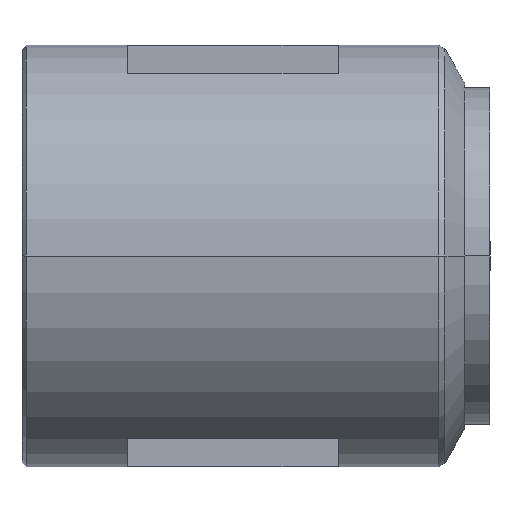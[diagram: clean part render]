
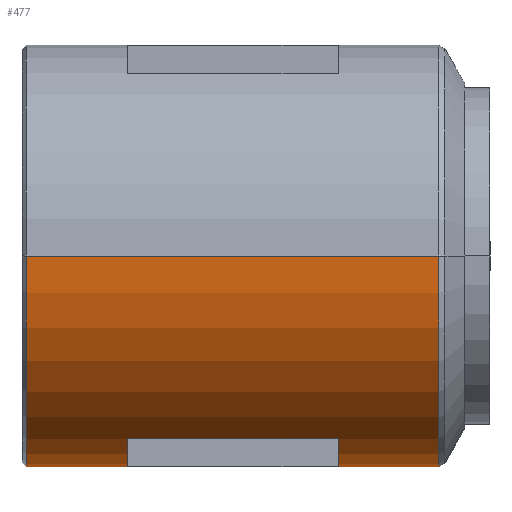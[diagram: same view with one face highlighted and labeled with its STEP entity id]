
A CAD part, left-side view. The second image highlights one B-rep face of the part: STEP entity #477.
In plain terms, the highlighted cylindrical face has radius 25 mm (diameter 50 mm), a partial arc.
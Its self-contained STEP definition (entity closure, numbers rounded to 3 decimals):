
#279=CARTESIAN_POINT('',(-25.0,34.25,0.));
#280=VERTEX_POINT('',#279);
#296=CARTESIAN_POINT('',(25.0,34.25,0.0));
#297=VERTEX_POINT('',#296);
#304=CARTESIAN_POINT('',(0.0,34.25,0.0));
#305=DIRECTION('',(0.0,1.0,0.0));
#306=DIRECTION('',(-1.0,0.0,0.0));
#307=AXIS2_PLACEMENT_3D('',#304,#305,#306);
#308=CIRCLE('',#307,25.0);
#309=EDGE_CURVE('',#297,#280,#308,.T.);
#356=CARTESIAN_POINT('',(0.0,-17.75,0.0));
#357=DIRECTION('',(0.0,1.0,0.0));
#358=DIRECTION('',(1.0,0.0,0.0));
#359=AXIS2_PLACEMENT_3D('',#356,#357,#358);
#360=CYLINDRICAL_SURFACE('',#359,25.0);
#361=CARTESIAN_POINT('',(25.0,-14.652,0.));
#362=VERTEX_POINT('',#361);
#363=CARTESIAN_POINT('',(25.0,-8.0,0.));
#364=VERTEX_POINT('',#363);
#365=CARTESIAN_POINT('',(25.0,-14.652,0.));
#366=DIRECTION('',(0.0,1.0,0.0));
#367=VECTOR('',#366,6.652);
#368=LINE('',#365,#367);
#369=EDGE_CURVE('',#362,#364,#368,.T.);
#370=ORIENTED_EDGE('',*,*,#369,.F.);
#371=CARTESIAN_POINT('',(-25.0,-14.652,0.0));
#372=VERTEX_POINT('',#371);
#373=CARTESIAN_POINT('',(0.0,-14.652,0.0));
#374=DIRECTION('',(0.0,-1.0,0.0));
#375=DIRECTION('',(1.0,0.0,0.0));
#376=AXIS2_PLACEMENT_3D('',#373,#374,#375);
#377=CIRCLE('',#376,25.0);
#378=EDGE_CURVE('',#372,#362,#377,.T.);
#379=ORIENTED_EDGE('',*,*,#378,.F.);
#380=CARTESIAN_POINT('',(-25.0,34.25,0.));
#381=DIRECTION('',(0.0,-1.0,0.0));
#382=VECTOR('',#381,48.902);
#383=LINE('',#380,#382);
#384=EDGE_CURVE('',#280,#372,#383,.T.);
#385=ORIENTED_EDGE('',*,*,#384,.F.);
#386=ORIENTED_EDGE('',*,*,#309,.F.);
#387=CARTESIAN_POINT('',(25.0,27.5,0.));
#388=VERTEX_POINT('',#387);
#389=CARTESIAN_POINT('',(25.0,27.5,0.));
#390=DIRECTION('',(0.0,1.0,0.0));
#391=VECTOR('',#390,6.75);
#392=LINE('',#389,#391);
#393=EDGE_CURVE('',#388,#297,#392,.T.);
#394=ORIENTED_EDGE('',*,*,#393,.F.);
#395=CARTESIAN_POINT('',(18.268,9.75,-17.067));
#396=VERTEX_POINT('',#395);
#397=CARTESIAN_POINT('',(25.0,27.5,0.));
#398=CARTESIAN_POINT('',(25.0,27.5,-2.111));
#399=CARTESIAN_POINT('',(24.721,27.081,-4.222));
#400=CARTESIAN_POINT('',(23.44,25.054,-9.272));
#401=CARTESIAN_POINT('',(22.11,22.921,-11.89));
#402=CARTESIAN_POINT('',(19.497,17.283,-15.84));
#403=CARTESIAN_POINT('',(18.268,13.591,-17.067));
#404=CARTESIAN_POINT('',(18.268,9.75,-17.067));
#405=B_SPLINE_CURVE_WITH_KNOTS('',3,(#397,#398,#399,#400,#401,#402,#403,#404),.UNSPECIFIED.,.F.,.U.,(4,2,2,4),(78.909,84.924,94.699,105.209),.UNSPECIFIED.);
#406=EDGE_CURVE('',#396,#388,#405,.F.);
#407=ORIENTED_EDGE('',*,*,#406,.F.);
#408=CARTESIAN_POINT('',(18.268,9.75,-17.067));
#409=CARTESIAN_POINT('',(18.268,8.489,-17.067));
#410=CARTESIAN_POINT('',(18.392,7.228,-16.936));
#411=CARTESIAN_POINT('',(18.977,4.074,-16.283));
#412=CARTESIAN_POINT('',(19.588,2.253,-15.577));
#413=CARTESIAN_POINT('',(21.314,-1.895,-13.188));
#414=CARTESIAN_POINT('',(22.532,-4.019,-11.154));
#415=CARTESIAN_POINT('',(24.392,-7.104,-6.112));
#416=CARTESIAN_POINT('',(25.0,-8.0,-3.067));
#417=CARTESIAN_POINT('',(25.0,-8.0,0.));
#418=B_SPLINE_CURVE_WITH_KNOTS('',3,(#408,#409,#410,#411,#412,#413,#414,#415,#416,#417),.UNSPECIFIED.,.F.,.U.,(4,2,2,2,4),(0.0,3.452,8.974,17.56,26.301),.UNSPECIFIED.);
#419=EDGE_CURVE('',#364,#396,#418,.F.);
#420=ORIENTED_EDGE('',*,*,#419,.F.);
#421=EDGE_LOOP('',(#370,#379,#385,#386,#394,#407,#420));
#422=FACE_OUTER_BOUND('',#421,.T.);
#423=CARTESIAN_POINT('',(12.5,22.25,-21.651));
#424=VERTEX_POINT('',#423);
#425=CARTESIAN_POINT('',(0.0,22.25,-25.0));
#426=VERTEX_POINT('',#425);
#427=CARTESIAN_POINT('',(0.0,22.25,0.0));
#428=DIRECTION('',(0.0,1.0,0.0));
#429=DIRECTION('',(1.0,0.0,0.0));
#430=AXIS2_PLACEMENT_3D('',#427,#428,#429);
#431=CIRCLE('',#430,25.0);
#432=EDGE_CURVE('',#424,#426,#431,.T.);
#433=ORIENTED_EDGE('',*,*,#432,.T.);
#434=CARTESIAN_POINT('',(-12.5,22.25,-21.651));
#435=VERTEX_POINT('',#434);
#436=CARTESIAN_POINT('',(0.0,22.25,0.0));
#437=DIRECTION('',(0.0,1.0,0.0));
#438=DIRECTION('',(1.0,0.0,0.0));
#439=AXIS2_PLACEMENT_3D('',#436,#437,#438);
#440=CIRCLE('',#439,25.0);
#441=EDGE_CURVE('',#426,#435,#440,.T.);
#442=ORIENTED_EDGE('',*,*,#441,.T.);
#443=CARTESIAN_POINT('',(-12.5,-2.75,-21.651));
#444=VERTEX_POINT('',#443);
#445=CARTESIAN_POINT('',(-12.5,22.25,-21.651));
#446=DIRECTION('',(0.0,-1.0,0.0));
#447=VECTOR('',#446,25.0);
#448=LINE('',#445,#447);
#449=EDGE_CURVE('',#435,#444,#448,.T.);
#450=ORIENTED_EDGE('',*,*,#449,.T.);
#451=CARTESIAN_POINT('',(0.0,-2.75,-25.0));
#452=VERTEX_POINT('',#451);
#453=CARTESIAN_POINT('',(0.0,-2.75,0.0));
#454=DIRECTION('',(0.0,-1.0,0.0));
#455=DIRECTION('',(1.0,0.0,0.0));
#456=AXIS2_PLACEMENT_3D('',#453,#454,#455);
#457=CIRCLE('',#456,25.0);
#458=EDGE_CURVE('',#444,#452,#457,.T.);
#459=ORIENTED_EDGE('',*,*,#458,.T.);
#460=CARTESIAN_POINT('',(12.5,-2.75,-21.651));
#461=VERTEX_POINT('',#460);
#462=CARTESIAN_POINT('',(0.0,-2.75,0.0));
#463=DIRECTION('',(0.0,-1.0,0.0));
#464=DIRECTION('',(1.0,0.0,0.0));
#465=AXIS2_PLACEMENT_3D('',#462,#463,#464);
#466=CIRCLE('',#465,25.0);
#467=EDGE_CURVE('',#452,#461,#466,.T.);
#468=ORIENTED_EDGE('',*,*,#467,.T.);
#469=CARTESIAN_POINT('',(12.5,-2.75,-21.651));
#470=DIRECTION('',(0.0,1.0,0.0));
#471=VECTOR('',#470,25.0);
#472=LINE('',#469,#471);
#473=EDGE_CURVE('',#461,#424,#472,.T.);
#474=ORIENTED_EDGE('',*,*,#473,.T.);
#475=EDGE_LOOP('',(#433,#442,#450,#459,#468,#474));
#476=FACE_BOUND('',#475,.T.);
#477=ADVANCED_FACE('',(#422,#476),#360,.T.);
